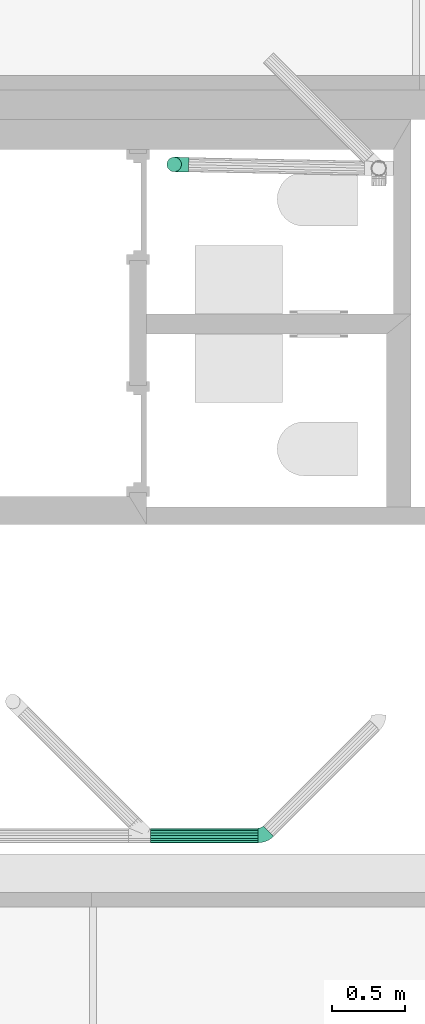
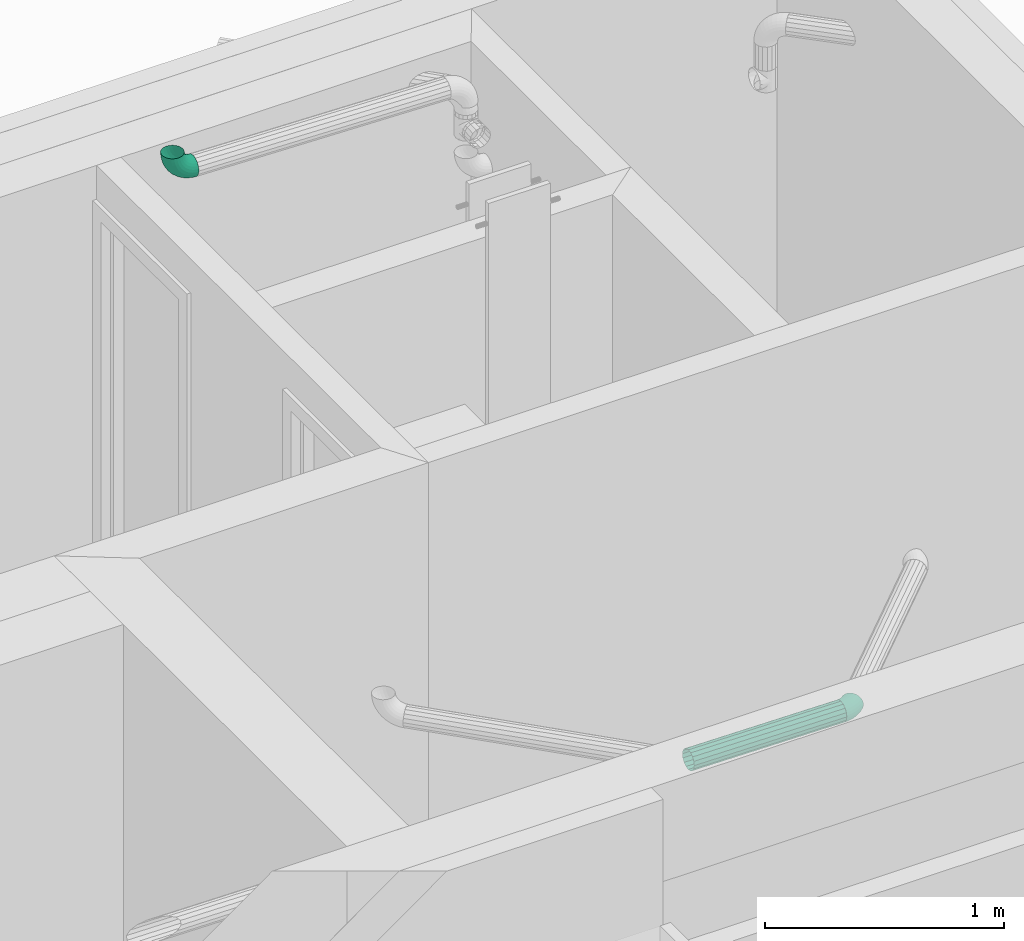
# One storey, part 15 of 22: 2 flow fittings, 1 flow segment.
"""IFC2X3 building model written with IfcOpenShell, lengths in metres."""

from ifc_helpers import new_model, entity, si_unit, converted_unit, derived_unit, money_unit, direction, frame, origin_with_axes, place, context, subcontext, project, spatial, open_shell, faceted_brep, surface_model, material, type_object, element, save


model = new_model("IFC2X3")

# Units and contexts
model_context = context("Model", 3, precision=1e-05, world=origin_with_axes(), true_north=direction((0.0, 1.0)))
body_context = subcontext(model_context, "Body", "Model", "MODEL_VIEW", scale=1.0)
ifc_project = project(units=[si_unit("LENGTHUNIT", "METRE"), si_unit("AREAUNIT", "SQUARE_METRE"), si_unit("VOLUMEUNIT", "CUBIC_METRE"), si_unit("ABSORBEDDOSEUNIT", "GRAY"), si_unit("AMOUNTOFSUBSTANCEUNIT", "MOLE"), si_unit("DOSEEQUIVALENTUNIT", "SIEVERT"), si_unit("ELECTRICCAPACITANCEUNIT", "FARAD"), si_unit("ELECTRICCHARGEUNIT", "COULOMB"), si_unit("ELECTRICCONDUCTANCEUNIT", "SIEMENS"), si_unit("ELECTRICCURRENTUNIT", "AMPERE"), si_unit("ELECTRICRESISTANCEUNIT", "OHM"), si_unit("ELECTRICVOLTAGEUNIT", "VOLT"), si_unit("ENERGYUNIT", "JOULE"), si_unit("FORCEUNIT", "NEWTON"), si_unit("FREQUENCYUNIT", "HERTZ"), si_unit("ILLUMINANCEUNIT", "LUX"), si_unit("INDUCTANCEUNIT", "HENRY"), si_unit("LUMINOUSFLUXUNIT", "LUMEN"), si_unit("LUMINOUSINTENSITYUNIT", "CANDELA"), si_unit("MAGNETICFLUXDENSITYUNIT", "TESLA"), si_unit("MAGNETICFLUXUNIT", "WEBER"), si_unit("MASSUNIT", "GRAM"), converted_unit("PLANEANGLEUNIT", "degree", entity("IfcReal", 0.0174532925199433), si_unit("PLANEANGLEUNIT", "RADIAN"), dimensions=[0, 0, 0, 0, 0, 0, 0]), si_unit("POWERUNIT", "WATT"), si_unit("PRESSUREUNIT", "PASCAL"), si_unit("RADIOACTIVITYUNIT", "BECQUEREL"), si_unit("SOLIDANGLEUNIT", "STERADIAN"), si_unit("THERMODYNAMICTEMPERATUREUNIT", "KELVIN"), si_unit("TIMEUNIT", "SECOND"), derived_unit("ACCELERATIONUNIT", [(si_unit("LENGTHUNIT", "METRE"), 1), (si_unit("TIMEUNIT", "SECOND"), -2)]), derived_unit("ANGULARVELOCITYUNIT", [(converted_unit("PLANEANGLEUNIT", "degree", entity("IfcReal", 0.0174532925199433), si_unit("PLANEANGLEUNIT", "RADIAN"), dimensions=[0, 0, 0, 0, 0, 0, 0]), 1), (si_unit("TIMEUNIT", "SECOND"), -1)]), derived_unit("CURVATUREUNIT", [(converted_unit("PLANEANGLEUNIT", "degree", entity("IfcReal", 0.0174532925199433), si_unit("PLANEANGLEUNIT", "RADIAN"), dimensions=[0, 0, 0, 0, 0, 0, 0]), 1), (si_unit("LENGTHUNIT", "METRE"), -1)]), derived_unit("DYNAMICVISCOSITYUNIT", [(si_unit("PRESSUREUNIT", "PASCAL"), 1), (si_unit("TIMEUNIT", "SECOND"), 1)]), derived_unit("HEATFLUXDENSITYUNIT", [(si_unit("POWERUNIT", "WATT"), 1), (si_unit("LENGTHUNIT", "METRE"), -2)]), derived_unit("HEATINGVALUEUNIT", [(si_unit("ENERGYUNIT", "JOULE"), 1), (si_unit("MASSUNIT", "GRAM"), -1)]), derived_unit("INTEGERCOUNTRATEUNIT", [(si_unit("TIMEUNIT", "SECOND"), -1)]), derived_unit("IONCONCENTRATIONUNIT", [(si_unit("MASSUNIT", "GRAM"), 1), (si_unit("VOLUMEUNIT", "CUBIC_METRE"), -1)]), derived_unit("ISOTHERMALMOISTURECAPACITYUNIT", [(si_unit("VOLUMEUNIT", "CUBIC_METRE"), 1), (si_unit("MASSUNIT", "GRAM"), -1)]), derived_unit("KINEMATICVISCOSITYUNIT", [(si_unit("AREAUNIT", "SQUARE_METRE"), 1), (si_unit("TIMEUNIT", "SECOND"), -1)]), derived_unit("LINEARFORCEUNIT", [(si_unit("FORCEUNIT", "NEWTON"), 1), (si_unit("LENGTHUNIT", "METRE"), -1)]), derived_unit("LINEARMOMENTUNIT", [(si_unit("FORCEUNIT", "NEWTON"), 1), (si_unit("LENGTHUNIT", "METRE"), -1)]), derived_unit("LINEARSTIFFNESSUNIT", [(si_unit("FORCEUNIT", "NEWTON"), 1), (si_unit("LENGTHUNIT", "METRE"), -1)]), derived_unit("LINEARVELOCITYUNIT", [(si_unit("LENGTHUNIT", "METRE"), 1), (si_unit("TIMEUNIT", "SECOND"), -1)]), derived_unit("LUMINOUSINTENSITYDISTRIBUTIONUNIT", [(si_unit("LUMINOUSINTENSITYUNIT", "CANDELA"), 1), (si_unit("LUMINOUSFLUXUNIT", "LUMEN"), -1)]), derived_unit("MASSDENSITYUNIT", [(si_unit("MASSUNIT", "GRAM"), 1), (si_unit("VOLUMEUNIT", "CUBIC_METRE"), -1)]), derived_unit("MASSFLOWRATEUNIT", [(si_unit("MASSUNIT", "GRAM"), 1), (si_unit("TIMEUNIT", "SECOND"), -1)]), derived_unit("MASSPERLENGTHUNIT", [(si_unit("MASSUNIT", "GRAM"), 1), (si_unit("LENGTHUNIT", "METRE"), -1)]), derived_unit("MODULUSOFELASTICITYUNIT", [(si_unit("FORCEUNIT", "NEWTON"), 1), (si_unit("AREAUNIT", "SQUARE_METRE"), -1)]), derived_unit("MODULUSOFLINEARSUBGRADEREACTIONUNIT", [(si_unit("FORCEUNIT", "NEWTON"), 1), (si_unit("LENGTHUNIT", "METRE"), -2)]), derived_unit("MODULUSOFROTATIONALSUBGRADEREACTIONUNIT", [(si_unit("FORCEUNIT", "NEWTON"), 1), (si_unit("LENGTHUNIT", "METRE"), 1)]), derived_unit("MODULUSOFSUBGRADEREACTIONUNIT", [(si_unit("FORCEUNIT", "NEWTON"), 1), (si_unit("VOLUMEUNIT", "CUBIC_METRE"), -1)]), derived_unit("MOISTUREDIFFUSIVITYUNIT", [(si_unit("VOLUMEUNIT", "CUBIC_METRE"), 1), (si_unit("TIMEUNIT", "SECOND"), -1)]), derived_unit("MOLECULARWEIGHTUNIT", [(si_unit("MASSUNIT", "GRAM"), 1), (si_unit("AMOUNTOFSUBSTANCEUNIT", "MOLE"), -1)]), derived_unit("PLANARFORCEUNIT", [(si_unit("FORCEUNIT", "NEWTON"), 1), (si_unit("LENGTHUNIT", "METRE"), -2)]), derived_unit("ROTATIONALFREQUENCYUNIT", [(si_unit("TIMEUNIT", "SECOND"), -1)]), derived_unit("ROTATIONALMASSUNIT", [(si_unit("MASSUNIT", "GRAM"), 1), (si_unit("LENGTHUNIT", "METRE"), 2)]), derived_unit("ROTATIONALSTIFFNESSUNIT", [(si_unit("FORCEUNIT", "NEWTON"), 1), (si_unit("LENGTHUNIT", "METRE"), 1), (converted_unit("PLANEANGLEUNIT", "degree", entity("IfcReal", 0.0174532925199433), si_unit("PLANEANGLEUNIT", "RADIAN"), dimensions=[0, 0, 0, 0, 0, 0, 0]), -1)]), derived_unit("SECTIONAREAINTEGRALUNIT", [(si_unit("LENGTHUNIT", "METRE"), 5)]), derived_unit("SECTIONMODULUSUNIT", [(si_unit("LENGTHUNIT", "METRE"), 3)]), derived_unit("SHEARMODULUSUNIT", [(si_unit("FORCEUNIT", "NEWTON"), 1), (si_unit("AREAUNIT", "SQUARE_METRE"), -1)]), derived_unit("SOUNDPOWERUNIT", [(si_unit("ENERGYUNIT", "JOULE"), 1), (si_unit("TIMEUNIT", "SECOND"), -1)]), derived_unit("SPECIFICHEATCAPACITYUNIT", [(si_unit("FORCEUNIT", "NEWTON"), 1), (si_unit("MASSUNIT", "GRAM"), -1), (si_unit("THERMODYNAMICTEMPERATUREUNIT", "KELVIN"), -1)]), derived_unit("TEMPERATUREGRADIENTUNIT", [(si_unit("THERMODYNAMICTEMPERATUREUNIT", "KELVIN"), 1), (si_unit("LENGTHUNIT", "METRE"), -1)]), derived_unit("THERMALADMITTANCEUNIT", [(si_unit("POWERUNIT", "WATT"), 1), (si_unit("AREAUNIT", "SQUARE_METRE"), -1), (si_unit("THERMODYNAMICTEMPERATUREUNIT", "KELVIN"), -1)]), derived_unit("THERMALCONDUCTANCEUNIT", [(si_unit("POWERUNIT", "WATT"), 1), (si_unit("LENGTHUNIT", "METRE"), -1), (si_unit("THERMODYNAMICTEMPERATUREUNIT", "KELVIN"), -1)]), derived_unit("THERMALEXPANSIONCOEFFICIENTUNIT", [(si_unit("THERMODYNAMICTEMPERATUREUNIT", "KELVIN"), -1)]), derived_unit("THERMALRESISTANCEUNIT", [(si_unit("AREAUNIT", "SQUARE_METRE"), 1), (si_unit("POWERUNIT", "WATT"), -1)]), derived_unit("THERMALTRANSMITTANCEUNIT", [(si_unit("POWERUNIT", "WATT"), 1), (si_unit("AREAUNIT", "SQUARE_METRE"), -1), (si_unit("THERMODYNAMICTEMPERATUREUNIT", "KELVIN"), -1)]), derived_unit("TORQUEUNIT", [(si_unit("FORCEUNIT", "NEWTON"), 1), (si_unit("LENGTHUNIT", "METRE"), 1)]), derived_unit("VAPORPERMEABILITYUNIT", [(si_unit("MASSUNIT", "GRAM"), 1), (si_unit("TIMEUNIT", "SECOND"), -1)]), derived_unit("VOLUMETRICFLOWRATEUNIT", [(si_unit("VOLUMEUNIT", "CUBIC_METRE"), 1), (si_unit("TIMEUNIT", "SECOND"), -1)]), derived_unit("WARPINGCONSTANTUNIT", [(si_unit("LENGTHUNIT", "METRE"), 6)]), derived_unit("WARPINGMOMENTUNIT", [(si_unit("FORCEUNIT", "NEWTON"), 1), (si_unit("LENGTHUNIT", "METRE"), 2)]), money_unit("GBP")], contexts=[model_context])

# Site, building, storey, space
site_placement = place(None, origin_with_axes())
site = spatial("IfcSite", under=ifc_project, at=site_placement, Name="Site", CompositionType="ELEMENT")
building_placement = place(site_placement, origin_with_axes())
building = spatial("IfcBuilding", under=site, at=building_placement, Name="Building01", CompositionType="ELEMENT")
storey_placement = place(building_placement, frame((0.0, 0.0, 2.6), z_axis=(0.0, 0.0, 1.0), x_axis=(1.0, 0.0, 0.0)))
storey = spatial("IfcBuildingStorey", under=building, at=storey_placement, Name="MF", CompositionType="ELEMENT", Elevation=2.6)
space_1_placement = place(storey_placement, frame((14.421434, 6.076984, 0.0), z_axis=(0.0, 0.0, 1.0), x_axis=(0.0, -1.0, 0.0)))
space_1 = spatial("IfcSpace", under=storey, at=space_1_placement, Name="storage", CompositionType="ELEMENT", InteriorOrExteriorSpace="NOTDEFINED")

# Flow segment
ifc_material = material(Name="M_BSUK_ColdWater")
pipe_segment_type = type_object("IfcPipeSegmentType", Name="M-BmpStraightpipe-DefaultPipe", PredefinedType="RIGIDSEGMENT")
placement = place(building_placement, origin_with_axes())
flow_segment_placement = place(placement, frame((15.842963, 3.948962, 4.664524), z_axis=(0.01249902, 0.0, 0.99992188), x_axis=(0.99992188, 0.0, -0.01249902)))
element("IfcFlowSegment", 1, at=flow_segment_placement, inside=space_1, type_object=pipe_segment_type, material=ifc_material, Name="M-BmpStraightpipe-DefaultPipe", ObjectType="M-BmpStraightpipe-DefaultPipe", context=body_context, shape_type="Brep", body=[
    faceted_brep([(0.736484, 0.0, -0.05), (0.0, 0.0, -0.05), (0.0, 0.019134, -0.046194), (0.736484, 0.019134, -0.046194), (0.0, 0.035355, -0.035355), (0.736484, 0.035355, -0.035355), (0.0, 0.046194, -0.019134), (0.736484, 0.046194, -0.019134), (0.0, 0.05, 0.0), (0.736484, 0.05, 0.0), (0.0, 0.046194, 0.019134), (0.736484, 0.046194, 0.019134), (0.0, 0.035355, 0.035355), (0.736484, 0.035355, 0.035355), (0.0, 0.019134, 0.046194), (0.736484, 0.019134, 0.046194), (0.0, 0.0, 0.05), (0.736484, 0.0, 0.05), (0.0, -0.019134, 0.046194), (0.736484, -0.019134, 0.046194), (0.0, -0.035355, 0.035355), (0.736484, -0.035355, 0.035355), (0.0, -0.046194, 0.019134), (0.736484, -0.046194, 0.019134), (0.0, -0.05, 0.0), (0.736484, -0.05, 0.0), (0.0, -0.046194, -0.019134), (0.736484, -0.046194, -0.019134), (0.0, -0.035355, -0.035355), (0.736484, -0.035355, -0.035355), (0.0, -0.019134, -0.046194), (0.736484, -0.019134, -0.046194)], [[[0, 1, 2, 3]], [[3, 2, 4, 5]], [[5, 4, 6, 7]], [[7, 6, 8, 9]], [[9, 8, 10, 11]], [[11, 10, 12, 13]], [[13, 12, 14, 15]], [[15, 14, 16, 17]], [[17, 16, 18, 19]], [[19, 18, 20, 21]], [[21, 20, 22, 23]], [[23, 22, 24, 25]], [[25, 24, 26, 27]], [[27, 26, 28, 29]], [[29, 28, 30, 31]], [[31, 30, 1, 0]]]),
])

# Space
space_2_placement = place(storey_placement, frame((15.816265, 6.196984, 0.0), z_axis=(0.0, 0.0, 1.0), x_axis=(1.0, 0.0, 0.0)))
space_2 = spatial("IfcSpace", under=storey, at=space_2_placement, Name="WC", CompositionType="ELEMENT", InteriorOrExteriorSpace="NOTDEFINED")

# Flow fittings
pipe_fitting_type = type_object("IfcPipeFittingType", Name="M-BmpElbow-DefaultElbow", PredefinedType="BEND")
flow_fitting_1_placement = place(placement, frame((16.004895, 8.543966, 4.923579), z_axis=(-0.99981388, 0.01929275, 0.0), x_axis=(0.0, 0.0, -1.0)))
element("IfcFlowFitting", 2, at=flow_fitting_1_placement, inside=space_2, type_object=pipe_fitting_type, material=ifc_material, Name="M-BmpElbow-DefaultElbow", ObjectType="M-BmpElbow-DefaultElbow", context=body_context, shape_type="SurfaceModel", body=[
    surface_model("IfcShellBasedSurfaceModel", [(0.008048, -0.01349, -0.048774), (0.0, -0.01349, -0.048146), (0.0, 0.0, -0.05), (0.00776, 0.0, -0.050606), (0.0159, -0.01349, -0.050644), (0.015332, 0.0, -0.052409), (0.023368, -0.01349, -0.05371), (0.022532, 0.0, -0.055365), (0.030269, -0.01349, -0.057897), (0.029187, 0.0, -0.059403), (0.036437, -0.01349, -0.063105), (0.035134, 0.0, -0.064424), (0.041721, -0.01349, -0.069207), (0.040229, 0.0, -0.070308), (0.045995, -0.01349, -0.076055), (0.04435, 0.0, -0.076912), (0.049154, -0.01349, -0.083484), (0.047396, 0.0, -0.084074), (0.051121, -0.01349, -0.091313), (0.049293, 0.0, -0.091623), (0.05185, -0.01349, -0.099352), (0.049996, 0.0, -0.099375), (0.00889, -0.025979, -0.043415), (0.0, -0.025979, -0.042721), (0.017564, -0.025979, -0.04548), (0.025813, -0.025979, -0.048867), (0.033436, -0.025979, -0.053493), (0.040248, -0.025979, -0.059245), (0.046086, -0.025979, -0.065986), (0.050807, -0.025979, -0.07355), (0.054296, -0.025979, -0.081756), (0.056469, -0.025979, -0.090404), (0.057275, -0.025979, -0.099284), (0.010223, -0.036542, -0.034926), (0.0, -0.036542, -0.034128), (0.020199, -0.036542, -0.037301), (0.029685, -0.036542, -0.041196), (0.038452, -0.036542, -0.046515), (0.046287, -0.036542, -0.053131), (0.053, -0.036542, -0.060883), (0.058429, -0.036542, -0.069582), (0.062442, -0.036542, -0.079019), (0.064941, -0.036542, -0.088964), (0.065867, -0.036542, -0.099177), (0.01195, -0.044394, -0.023936), (0.0, -0.044394, -0.023003), (0.02361, -0.044394, -0.026712), (0.034698, -0.044394, -0.031265), (0.044946, -0.044394, -0.037483), (0.054104, -0.044394, -0.045216), (0.061951, -0.044394, -0.054277), (0.068296, -0.044394, -0.064445), (0.072987, -0.044394, -0.075476), (0.075908, -0.044394, -0.0871), (0.076991, -0.044394, -0.099038), (0.013941, -0.048954, -0.011261), (0.0, -0.048954, -0.010173), (0.027544, -0.048954, -0.0145), (0.04048, -0.048954, -0.019811), (0.052435, -0.048954, -0.027065), (0.063119, -0.048954, -0.036087), (0.072274, -0.048954, -0.046657), (0.079677, -0.048954, -0.058521), (0.085149, -0.048954, -0.071389), (0.088558, -0.048954, -0.084951), (0.08982, -0.048954, -0.098877), (0.01605, -0.049883, 0.002159), (0.0, -0.049883, 0.003412), (0.03171, -0.049883, -0.00157), (0.046602, -0.049883, -0.007684), (0.060365, -0.049883, -0.016035), (0.072665, -0.049883, -0.026421), (0.083204, -0.049883, -0.03859), (0.091727, -0.049883, -0.052247), (0.098026, -0.049883, -0.067062), (0.101951, -0.049883, -0.082675), (0.103404, -0.049883, -0.098707), (0.018119, -0.047113, 0.015329), (0.0, -0.047113, 0.016744), (0.035798, -0.047113, 0.01112), (0.05261, -0.047113, 0.004218), (0.068147, -0.047113, -0.00521), (0.082033, -0.047113, -0.016935), (0.093931, -0.047113, -0.030673), (0.103552, -0.047113, -0.046091), (0.110664, -0.047113, -0.062816), (0.115094, -0.047113, -0.080441), (0.116735, -0.047113, -0.098541), (0.019995, -0.040848, 0.027273), (0.0, -0.040848, 0.028834), (0.039505, -0.040848, 0.022628), (0.058059, -0.040848, 0.01501), (0.075205, -0.040848, 0.004606), (0.090528, -0.040848, -0.008333), (0.103658, -0.040848, -0.023494), (0.114276, -0.040848, -0.040508), (0.122124, -0.040848, -0.058965), (0.127013, -0.040848, -0.078416), (0.128824, -0.040848, -0.09839), (0.021539, -0.031554, 0.037104), (0.0, -0.031554, 0.038786), (0.042557, -0.031554, 0.0321), (0.062543, -0.031554, 0.023894), (0.081014, -0.031554, 0.012686), (0.097521, -0.031554, -0.001252), (0.111665, -0.031554, -0.017584), (0.123103, -0.031554, -0.035913), (0.131557, -0.031554, -0.055795), (0.136824, -0.031554, -0.076749), (0.138775, -0.031554, -0.098265), (0.022638, -0.01992, 0.044093), (0.0, -0.01992, 0.045861), (0.044726, -0.01992, 0.038834), (0.065732, -0.01992, 0.03021), (0.085144, -0.01992, 0.018431), (0.102492, -0.01992, 0.003782), (0.117357, -0.01992, -0.013383), (0.129378, -0.01992, -0.032646), (0.138264, -0.01992, -0.053542), (0.143799, -0.01992, -0.075563), (0.145849, -0.01992, -0.098177), (0.023208, -0.006808, 0.047722), (0.0, -0.006808, 0.049534), (0.045853, -0.006808, 0.042331), (0.067387, -0.006808, 0.03349), (0.087288, -0.006808, 0.021414), (0.105074, -0.006808, 0.006395), (0.120313, -0.006808, -0.011201), (0.132637, -0.006808, -0.03095), (0.141746, -0.006808, -0.052372), (0.147421, -0.006808, -0.074948), (0.149523, -0.006808, -0.098131), (0.023208, 0.006808, 0.047722), (0.0, 0.006808, 0.049534), (0.045853, 0.006808, 0.042331), (0.067387, 0.006808, 0.03349), (0.087288, 0.006808, 0.021414), (0.105074, 0.006808, 0.006395), (0.120313, 0.006808, -0.011201), (0.132637, 0.006808, -0.03095), (0.141746, 0.006808, -0.052372), (0.147421, 0.006808, -0.074948), (0.149523, 0.006808, -0.098131), (0.022638, 0.01992, 0.044093), (0.0, 0.01992, 0.045861), (0.044726, 0.01992, 0.038834), (0.065732, 0.01992, 0.03021), (0.085144, 0.01992, 0.018431), (0.102492, 0.01992, 0.003782), (0.117357, 0.01992, -0.013383), (0.129378, 0.01992, -0.032646), (0.138264, 0.01992, -0.053542), (0.143799, 0.01992, -0.075563), (0.145849, 0.01992, -0.098177), (0.021539, 0.031554, 0.037104), (0.0, 0.031554, 0.038786), (0.042557, 0.031554, 0.0321), (0.062543, 0.031554, 0.023894), (0.081014, 0.031554, 0.012686), (0.097521, 0.031554, -0.001252), (0.111665, 0.031554, -0.017584), (0.123103, 0.031554, -0.035913), (0.131557, 0.031554, -0.055795), (0.136824, 0.031554, -0.076749), (0.138775, 0.031554, -0.098265), (0.019995, 0.040848, 0.027273), (0.0, 0.040848, 0.028834), (0.039505, 0.040848, 0.022628), (0.058059, 0.040848, 0.01501), (0.075205, 0.040848, 0.004606), (0.090528, 0.040848, -0.008333), (0.103658, 0.040848, -0.023494), (0.114276, 0.040848, -0.040508), (0.122124, 0.040848, -0.058965), (0.127013, 0.040848, -0.078416), (0.128824, 0.040848, -0.09839), (0.018119, 0.047113, 0.015329), (0.0, 0.047113, 0.016744), (0.035798, 0.047113, 0.01112), (0.05261, 0.047113, 0.004218), (0.068147, 0.047113, -0.00521), (0.082033, 0.047113, -0.016935), (0.093931, 0.047113, -0.030673), (0.103552, 0.047113, -0.046091), (0.110664, 0.047113, -0.062816), (0.115094, 0.047113, -0.080441), (0.116735, 0.047113, -0.098541), (0.01605, 0.049883, 0.002159), (0.0, 0.049883, 0.003412), (0.03171, 0.049883, -0.00157), (0.046602, 0.049883, -0.007684), (0.060365, 0.049883, -0.016035), (0.072665, 0.049883, -0.026421), (0.083204, 0.049883, -0.03859), (0.091727, 0.049883, -0.052247), (0.098026, 0.049883, -0.067062), (0.101951, 0.049883, -0.082675), (0.103404, 0.049883, -0.098707), (0.013941, 0.048954, -0.011261), (0.0, 0.048954, -0.010173), (0.027544, 0.048954, -0.0145), (0.04048, 0.048954, -0.019811), (0.052435, 0.048954, -0.027065), (0.063119, 0.048954, -0.036087), (0.072274, 0.048954, -0.046657), (0.079677, 0.048954, -0.058521), (0.085149, 0.048954, -0.071389), (0.088558, 0.048954, -0.084951), (0.08982, 0.048954, -0.098877), (0.01195, 0.044394, -0.023936), (0.0, 0.044394, -0.023003), (0.02361, 0.044394, -0.026712), (0.034698, 0.044394, -0.031265), (0.044946, 0.044394, -0.037483), (0.054104, 0.044394, -0.045216), (0.061951, 0.044394, -0.054277), (0.068296, 0.044394, -0.064445), (0.072987, 0.044394, -0.075476), (0.075908, 0.044394, -0.0871), (0.076991, 0.044394, -0.099038), (0.010223, 0.036542, -0.034926), (0.0, 0.036542, -0.034128), (0.020199, 0.036542, -0.037301), (0.029685, 0.036542, -0.041196), (0.038452, 0.036542, -0.046515), (0.046287, 0.036542, -0.053131), (0.053, 0.036542, -0.060883), (0.058429, 0.036542, -0.069582), (0.062442, 0.036542, -0.079019), (0.064941, 0.036542, -0.088964), (0.065867, 0.036542, -0.099177), (0.00889, 0.025979, -0.043415), (0.0, 0.025979, -0.042721), (0.017564, 0.025979, -0.04548), (0.025813, 0.025979, -0.048867), (0.033436, 0.025979, -0.053493), (0.040248, 0.025979, -0.059245), (0.046086, 0.025979, -0.065986), (0.050807, 0.025979, -0.07355), (0.054296, 0.025979, -0.081756), (0.056469, 0.025979, -0.090404), (0.057275, 0.025979, -0.099284), (0.008048, 0.01349, -0.048774), (0.0, 0.01349, -0.048146), (0.0159, 0.01349, -0.050644), (0.023368, 0.01349, -0.05371), (0.030269, 0.01349, -0.057897), (0.036437, 0.01349, -0.063105), (0.041721, 0.01349, -0.069207), (0.045995, 0.01349, -0.076055), (0.049154, 0.01349, -0.083484), (0.051121, 0.01349, -0.091313), (0.05185, 0.01349, -0.099352)], [open_shell([[[0, 1, 2, 3]], [[4, 0, 3, 5]], [[6, 4, 5, 7]], [[8, 6, 7, 9]], [[10, 8, 9, 11]], [[12, 10, 11, 13]], [[14, 12, 13, 15]], [[16, 14, 15, 17]], [[18, 16, 17, 19]], [[20, 18, 19, 21]], [[22, 23, 1, 0]], [[24, 22, 0, 4]], [[25, 24, 4, 6]], [[26, 25, 6, 8]], [[27, 26, 8, 10]], [[28, 27, 10, 12]], [[29, 28, 12, 14]], [[30, 29, 14, 16]], [[31, 30, 16, 18]], [[32, 31, 18, 20]], [[33, 34, 23, 22]], [[35, 33, 22, 24]], [[36, 35, 24, 25]], [[37, 36, 25, 26]], [[38, 37, 26, 27]], [[39, 38, 27, 28]], [[40, 39, 28, 29]], [[41, 40, 29, 30]], [[42, 41, 30, 31]], [[43, 42, 31, 32]], [[44, 45, 34, 33]], [[46, 44, 33, 35]], [[47, 46, 35, 36]], [[48, 47, 36, 37]], [[49, 48, 37, 38]], [[50, 49, 38, 39]], [[51, 50, 39, 40]], [[52, 51, 40, 41]], [[53, 52, 41, 42]], [[54, 53, 42, 43]], [[55, 56, 45, 44]], [[57, 55, 44, 46]], [[58, 57, 46, 47]], [[59, 58, 47, 48]], [[60, 59, 48, 49]], [[61, 60, 49, 50]], [[62, 61, 50, 51]], [[63, 62, 51, 52]], [[64, 63, 52, 53]], [[65, 64, 53, 54]], [[66, 67, 56, 55]], [[68, 66, 55, 57]], [[69, 68, 57, 58]], [[70, 69, 58, 59]], [[71, 70, 59, 60]], [[72, 71, 60, 61]], [[73, 72, 61, 62]], [[74, 73, 62, 63]], [[75, 74, 63, 64]], [[76, 75, 64, 65]], [[77, 78, 67, 66]], [[79, 77, 66, 68]], [[80, 79, 68, 69]], [[81, 80, 69, 70]], [[82, 81, 70, 71]], [[83, 82, 71, 72]], [[84, 83, 72, 73]], [[85, 84, 73, 74]], [[86, 85, 74, 75]], [[87, 86, 75, 76]], [[88, 89, 78, 77]], [[90, 88, 77, 79]], [[91, 90, 79, 80]], [[92, 91, 80, 81]], [[93, 92, 81, 82]], [[94, 93, 82, 83]], [[95, 94, 83, 84]], [[96, 95, 84, 85]], [[97, 96, 85, 86]], [[98, 97, 86, 87]], [[99, 100, 89, 88]], [[101, 99, 88, 90]], [[102, 101, 90, 91]], [[103, 102, 91, 92]], [[104, 103, 92, 93]], [[105, 104, 93, 94]], [[106, 105, 94, 95]], [[107, 106, 95, 96]], [[108, 107, 96, 97]], [[109, 108, 97, 98]], [[110, 111, 100, 99]], [[112, 110, 99, 101]], [[113, 112, 101, 102]], [[114, 113, 102, 103]], [[115, 114, 103, 104]], [[116, 115, 104, 105]], [[117, 116, 105, 106]], [[118, 117, 106, 107]], [[119, 118, 107, 108]], [[120, 119, 108, 109]], [[121, 122, 111, 110]], [[123, 121, 110, 112]], [[124, 123, 112, 113]], [[125, 124, 113, 114]], [[126, 125, 114, 115]], [[127, 126, 115, 116]], [[128, 127, 116, 117]], [[129, 128, 117, 118]], [[130, 129, 118, 119]], [[131, 130, 119, 120]], [[132, 133, 122, 121]], [[134, 132, 121, 123]], [[135, 134, 123, 124]], [[136, 135, 124, 125]], [[137, 136, 125, 126]], [[138, 137, 126, 127]], [[139, 138, 127, 128]], [[140, 139, 128, 129]], [[141, 140, 129, 130]], [[142, 141, 130, 131]], [[143, 144, 133, 132]], [[145, 143, 132, 134]], [[146, 145, 134, 135]], [[147, 146, 135, 136]], [[148, 147, 136, 137]], [[149, 148, 137, 138]], [[150, 149, 138, 139]], [[151, 150, 139, 140]], [[152, 151, 140, 141]], [[153, 152, 141, 142]], [[154, 155, 144, 143]], [[156, 154, 143, 145]], [[157, 156, 145, 146]], [[158, 157, 146, 147]], [[159, 158, 147, 148]], [[160, 159, 148, 149]], [[161, 160, 149, 150]], [[162, 161, 150, 151]], [[163, 162, 151, 152]], [[164, 163, 152, 153]], [[165, 166, 155, 154]], [[167, 165, 154, 156]], [[168, 167, 156, 157]], [[169, 168, 157, 158]], [[170, 169, 158, 159]], [[171, 170, 159, 160]], [[172, 171, 160, 161]], [[173, 172, 161, 162]], [[174, 173, 162, 163]], [[175, 174, 163, 164]], [[176, 177, 166, 165]], [[178, 176, 165, 167]], [[179, 178, 167, 168]], [[180, 179, 168, 169]], [[181, 180, 169, 170]], [[182, 181, 170, 171]], [[183, 182, 171, 172]], [[184, 183, 172, 173]], [[185, 184, 173, 174]], [[186, 185, 174, 175]], [[187, 188, 177, 176]], [[189, 187, 176, 178]], [[190, 189, 178, 179]], [[191, 190, 179, 180]], [[192, 191, 180, 181]], [[193, 192, 181, 182]], [[194, 193, 182, 183]], [[195, 194, 183, 184]], [[196, 195, 184, 185]], [[197, 196, 185, 186]], [[198, 199, 188, 187]], [[200, 198, 187, 189]], [[201, 200, 189, 190]], [[202, 201, 190, 191]], [[203, 202, 191, 192]], [[204, 203, 192, 193]], [[205, 204, 193, 194]], [[206, 205, 194, 195]], [[207, 206, 195, 196]], [[208, 207, 196, 197]], [[209, 210, 199, 198]], [[211, 209, 198, 200]], [[212, 211, 200, 201]], [[213, 212, 201, 202]], [[214, 213, 202, 203]], [[215, 214, 203, 204]], [[216, 215, 204, 205]], [[217, 216, 205, 206]], [[218, 217, 206, 207]], [[219, 218, 207, 208]], [[220, 221, 210, 209]], [[222, 220, 209, 211]], [[223, 222, 211, 212]], [[224, 223, 212, 213]], [[225, 224, 213, 214]], [[226, 225, 214, 215]], [[227, 226, 215, 216]], [[228, 227, 216, 217]], [[229, 228, 217, 218]], [[230, 229, 218, 219]], [[231, 232, 221, 220]], [[233, 231, 220, 222]], [[234, 233, 222, 223]], [[235, 234, 223, 224]], [[236, 235, 224, 225]], [[237, 236, 225, 226]], [[238, 237, 226, 227]], [[239, 238, 227, 228]], [[240, 239, 228, 229]], [[241, 240, 229, 230]], [[242, 243, 232, 231]], [[244, 242, 231, 233]], [[245, 244, 233, 234]], [[246, 245, 234, 235]], [[247, 246, 235, 236]], [[248, 247, 236, 237]], [[249, 248, 237, 238]], [[250, 249, 238, 239]], [[251, 250, 239, 240]], [[252, 251, 240, 241]], [[3, 2, 243, 242]], [[5, 3, 242, 244]], [[7, 5, 244, 245]], [[9, 7, 245, 246]], [[11, 9, 246, 247]], [[13, 11, 247, 248]], [[15, 13, 248, 249]], [[17, 15, 249, 250]], [[19, 17, 250, 251]], [[21, 19, 251, 252]]])]),
])
flow_fitting_2_placement = place(placement, frame((16.579389, 3.948962, 4.655319), z_axis=(6.471e-05, -0.9999866, 0.00517679), x_axis=(0.99992188, 0.0, -0.01249902)))
element("IfcFlowFitting", 3, at=flow_fitting_2_placement, inside=space_1, type_object=pipe_fitting_type, material=ifc_material, Name="M-BmpElbow-DefaultElbow", ObjectType="M-BmpElbow-DefaultElbow", context=body_context, shape_type="SurfaceModel", body=[
    surface_model("IfcShellBasedSurfaceModel", [(0.008111, -0.01349, -0.048784), (0.0, -0.01349, -0.048146), (0.0, 0.0, -0.05), (0.007821, 0.0, -0.050615), (0.016023, -0.01349, -0.050683), (0.01545, 0.0, -0.052447), (0.023539, -0.01349, -0.053797), (0.022698, 0.0, -0.055449), (0.030477, -0.01349, -0.058048), (0.029387, 0.0, -0.059548), (0.036664, -0.01349, -0.063331), (0.035353, 0.0, -0.064642), (0.00896, -0.025979, -0.043426), (0.0, -0.025979, -0.042721), (0.017699, -0.025979, -0.045524), (0.026002, -0.025979, -0.048963), (0.033665, -0.025979, -0.053659), (0.0405, -0.025979, -0.059495), (0.010304, -0.036542, -0.034939), (0.0, -0.036542, -0.034128), (0.020354, -0.036542, -0.037351), (0.029903, -0.036542, -0.041306), (0.038716, -0.036542, -0.046706), (0.046576, -0.036542, -0.053418), (0.012044, -0.044394, -0.023951), (0.0, -0.044394, -0.023003), (0.023791, -0.044394, -0.026771), (0.034953, -0.044394, -0.031394), (0.045254, -0.044394, -0.037706), (0.054441, -0.044394, -0.045552), (0.014051, -0.048954, -0.011279), (0.0, -0.048954, -0.010173), (0.027756, -0.048954, -0.014569), (0.040778, -0.048954, -0.019962), (0.052795, -0.048954, -0.027326), (0.063513, -0.048954, -0.036478), (0.016176, -0.049883, 0.002139), (0.0, -0.049883, 0.003412), (0.031954, -0.049883, -0.001648), (0.046945, -0.049883, -0.007857), (0.06078, -0.049883, -0.016335), (0.073119, -0.049883, -0.026872), (0.018261, -0.047113, 0.015307), (0.0, -0.047113, 0.016744), (0.036073, -0.047113, 0.011031), (0.052997, -0.047113, 0.004022), (0.068616, -0.047113, -0.005549), (0.082545, -0.047113, -0.017444), (0.020152, -0.040848, 0.027248), (0.0, -0.040848, 0.028834), (0.039809, -0.040848, 0.022529), (0.058485, -0.040848, 0.014794), (0.075721, -0.040848, 0.004233), (0.091094, -0.040848, -0.008895), (0.021709, -0.031554, 0.037077), (0.0, -0.031554, 0.038786), (0.042884, -0.031554, 0.031994), (0.063003, -0.031554, 0.023661), (0.08157, -0.031554, 0.012284), (0.09813, -0.031554, -0.001857), (0.022816, -0.01992, 0.044065), (0.0, -0.01992, 0.045861), (0.04507, -0.01992, 0.038723), (0.066214, -0.01992, 0.029965), (0.085729, -0.01992, 0.018008), (0.103132, -0.01992, 0.003146), (0.02339, -0.006808, 0.047694), (0.0, -0.006808, 0.049534), (0.046205, -0.006808, 0.042217), (0.067882, -0.006808, 0.033239), (0.087888, -0.006808, 0.02098), (0.10573, -0.006808, 0.005744), (0.02339, 0.006808, 0.047694), (0.0, 0.006808, 0.049534), (0.046205, 0.006808, 0.042217), (0.067882, 0.006808, 0.033239), (0.087888, 0.006808, 0.02098), (0.10573, 0.006808, 0.005744), (0.022816, 0.01992, 0.044065), (0.0, 0.01992, 0.045861), (0.04507, 0.01992, 0.038723), (0.066214, 0.01992, 0.029965), (0.085729, 0.01992, 0.018008), (0.103132, 0.01992, 0.003146), (0.021709, 0.031554, 0.037077), (0.0, 0.031554, 0.038786), (0.042884, 0.031554, 0.031994), (0.063003, 0.031554, 0.023661), (0.08157, 0.031554, 0.012284), (0.09813, 0.031554, -0.001857), (0.020152, 0.040848, 0.027248), (0.0, 0.040848, 0.028834), (0.039809, 0.040848, 0.022529), (0.058485, 0.040848, 0.014794), (0.075721, 0.040848, 0.004233), (0.091094, 0.040848, -0.008895), (0.018261, 0.047113, 0.015307), (0.0, 0.047113, 0.016744), (0.036073, 0.047113, 0.011031), (0.052997, 0.047113, 0.004022), (0.068616, 0.047113, -0.005549), (0.082545, 0.047113, -0.017444), (0.016176, 0.049883, 0.002139), (0.0, 0.049883, 0.003412), (0.031954, 0.049883, -0.001648), (0.046945, 0.049883, -0.007857), (0.06078, 0.049883, -0.016335), (0.073119, 0.049883, -0.026872), (0.014051, 0.048954, -0.011279), (0.0, 0.048954, -0.010173), (0.027756, 0.048954, -0.014569), (0.040778, 0.048954, -0.019962), (0.052795, 0.048954, -0.027326), (0.063513, 0.048954, -0.036478), (0.012044, 0.044394, -0.023951), (0.0, 0.044394, -0.023003), (0.023791, 0.044394, -0.026771), (0.034953, 0.044394, -0.031394), (0.045254, 0.044394, -0.037706), (0.054441, 0.044394, -0.045552), (0.010304, 0.036542, -0.034939), (0.0, 0.036542, -0.034128), (0.020354, 0.036542, -0.037351), (0.029903, 0.036542, -0.041306), (0.038716, 0.036542, -0.046706), (0.046576, 0.036542, -0.053418), (0.00896, 0.025979, -0.043426), (0.0, 0.025979, -0.042721), (0.017699, 0.025979, -0.045524), (0.026002, 0.025979, -0.048963), (0.033665, 0.025979, -0.053659), (0.0405, 0.025979, -0.059495), (0.008111, 0.01349, -0.048784), (0.0, 0.01349, -0.048146), (0.016023, 0.01349, -0.050683), (0.023539, 0.01349, -0.053797), (0.030477, 0.01349, -0.058048), (0.036664, 0.01349, -0.063331)], [open_shell([[[0, 1, 2, 3]], [[4, 0, 3, 5]], [[6, 4, 5, 7]], [[8, 6, 7, 9]], [[10, 8, 9, 11]], [[12, 13, 1, 0]], [[14, 12, 0, 4]], [[15, 14, 4, 6]], [[16, 15, 6, 8]], [[17, 16, 8, 10]], [[18, 19, 13, 12]], [[20, 18, 12, 14]], [[21, 20, 14, 15]], [[22, 21, 15, 16]], [[23, 22, 16, 17]], [[24, 25, 19, 18]], [[26, 24, 18, 20]], [[27, 26, 20, 21]], [[28, 27, 21, 22]], [[29, 28, 22, 23]], [[30, 31, 25, 24]], [[32, 30, 24, 26]], [[33, 32, 26, 27]], [[34, 33, 27, 28]], [[35, 34, 28, 29]], [[36, 37, 31, 30]], [[38, 36, 30, 32]], [[39, 38, 32, 33]], [[40, 39, 33, 34]], [[41, 40, 34, 35]], [[42, 43, 37, 36]], [[44, 42, 36, 38]], [[45, 44, 38, 39]], [[46, 45, 39, 40]], [[47, 46, 40, 41]], [[48, 49, 43, 42]], [[50, 48, 42, 44]], [[51, 50, 44, 45]], [[52, 51, 45, 46]], [[53, 52, 46, 47]], [[54, 55, 49, 48]], [[56, 54, 48, 50]], [[57, 56, 50, 51]], [[58, 57, 51, 52]], [[59, 58, 52, 53]], [[60, 61, 55, 54]], [[62, 60, 54, 56]], [[63, 62, 56, 57]], [[64, 63, 57, 58]], [[65, 64, 58, 59]], [[66, 67, 61, 60]], [[68, 66, 60, 62]], [[69, 68, 62, 63]], [[70, 69, 63, 64]], [[71, 70, 64, 65]], [[72, 73, 67, 66]], [[74, 72, 66, 68]], [[75, 74, 68, 69]], [[76, 75, 69, 70]], [[77, 76, 70, 71]], [[78, 79, 73, 72]], [[80, 78, 72, 74]], [[81, 80, 74, 75]], [[82, 81, 75, 76]], [[83, 82, 76, 77]], [[84, 85, 79, 78]], [[86, 84, 78, 80]], [[87, 86, 80, 81]], [[88, 87, 81, 82]], [[89, 88, 82, 83]], [[90, 91, 85, 84]], [[92, 90, 84, 86]], [[93, 92, 86, 87]], [[94, 93, 87, 88]], [[95, 94, 88, 89]], [[96, 97, 91, 90]], [[98, 96, 90, 92]], [[99, 98, 92, 93]], [[100, 99, 93, 94]], [[101, 100, 94, 95]], [[102, 103, 97, 96]], [[104, 102, 96, 98]], [[105, 104, 98, 99]], [[106, 105, 99, 100]], [[107, 106, 100, 101]], [[108, 109, 103, 102]], [[110, 108, 102, 104]], [[111, 110, 104, 105]], [[112, 111, 105, 106]], [[113, 112, 106, 107]], [[114, 115, 109, 108]], [[116, 114, 108, 110]], [[117, 116, 110, 111]], [[118, 117, 111, 112]], [[119, 118, 112, 113]], [[120, 121, 115, 114]], [[122, 120, 114, 116]], [[123, 122, 116, 117]], [[124, 123, 117, 118]], [[125, 124, 118, 119]], [[126, 127, 121, 120]], [[128, 126, 120, 122]], [[129, 128, 122, 123]], [[130, 129, 123, 124]], [[131, 130, 124, 125]], [[132, 133, 127, 126]], [[134, 132, 126, 128]], [[135, 134, 128, 129]], [[136, 135, 129, 130]], [[137, 136, 130, 131]], [[3, 2, 133, 132]], [[5, 3, 132, 134]], [[7, 5, 134, 135]], [[9, 7, 135, 136]], [[11, 9, 136, 137]]])]),
])

save(model, "model.ifc")
